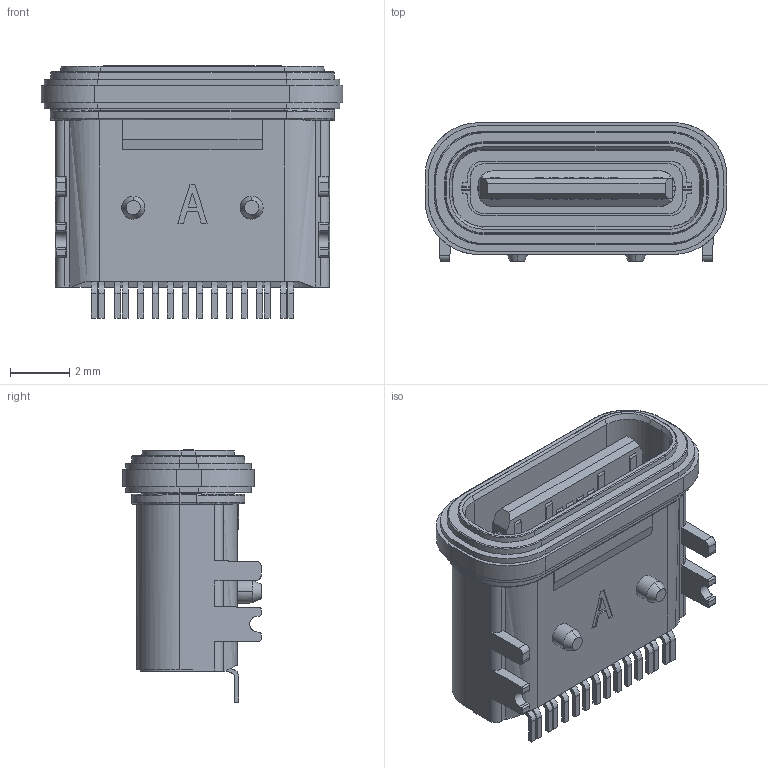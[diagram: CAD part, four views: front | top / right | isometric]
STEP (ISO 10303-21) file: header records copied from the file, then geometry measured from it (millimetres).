
FILE_DESCRIPTION((' '),'2;1');
FILE_NAME( 'U5279-16PN7.5LF.stp', '2026-05-15T15:08:28', (' '), ('--- ---'), ' V2026.1 Dec 31 2025', ' 2026 (c)', ' ');
FILE_SCHEMA(('AP242_MANAGED_MODEL_BASED_3D_ENGINEERING_MIM_LF { 1 0 10303 442 1 1 4 }'));
Length unit declared in the file: millimetre
Products named in the file (1): U5279-16PN7.5LF
Bounding box: 10.2 x 4.67 x 8.52 mm (x, y, z)
Volume: 159.2 mm3; surface area: 553 mm2
Topology: 4 solids, 4 shells, 623 faces, 1729 edges, 1139 vertices
Faces by surface type: plane 437, bspline 186
Entity records: 21271 total; most frequent: CARTESIAN_POINT 7009, ORIENTED_EDGE 3458, DIRECTION 2200, EDGE_CURVE 1729, VECTOR 1322, LINE 1322, VERTEX_POINT 1139, EDGE_LOOP 652
